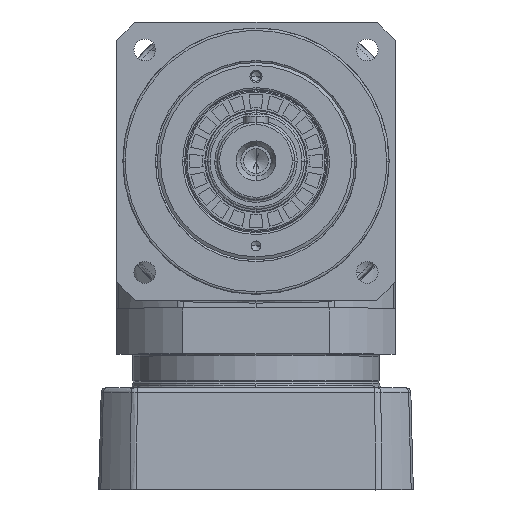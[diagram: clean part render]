
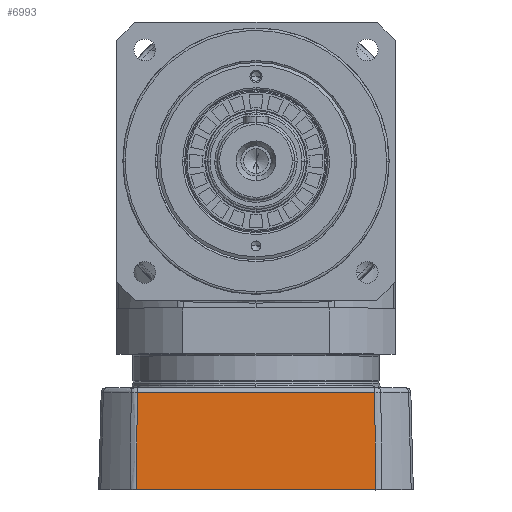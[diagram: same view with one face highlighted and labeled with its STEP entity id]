
A CAD part, top view. The second image highlights one B-rep face of the part: STEP entity #6993.
In plain terms, the highlighted planar face has unit normal (0, 0.026, 1).
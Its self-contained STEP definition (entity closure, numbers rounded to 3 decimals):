
#5768 = CARTESIAN_POINT ( 'NONE',  ( 102.549, -63.06, -131.869 ) ) ;
#6334 = VERTEX_POINT ( 'NONE', #92460 ) ;
#6806 = CARTESIAN_POINT ( 'NONE',  ( 4.103, -103.113, -130.82 ) ) ;
#6993 = ADVANCED_FACE ( 'NONE', ( #15796 ), #74533, .F. ) ;
#8734 = DIRECTION ( 'NONE',  ( -1., 0., 0. ) ) ;
#12037 = EDGE_CURVE ( 'NONE', #70238, #99948, #25780, .T. ) ;
#13867 = CARTESIAN_POINT ( 'NONE',  ( 53.512, -63.06, -131.869 ) ) ;
#15796 = FACE_OUTER_BOUND ( 'NONE', #104680, .T. ) ;
#19050 = LINE ( 'NONE', #67446, #139596 ) ;
#23244 = EDGE_CURVE ( 'NONE', #123557, #6334, #19050, .T. ) ;
#23421 = CARTESIAN_POINT ( 'NONE',  ( 4.476, -63.06, -131.869 ) ) ;
#25780 = LINE ( 'NONE', #13867, #40584 ) ;
#38622 = CARTESIAN_POINT ( 'NONE',  ( 102.922, -103.113, -130.82 ) ) ;
#40584 = VECTOR ( 'NONE', #110691, 1000. ) ;
#50510 = CARTESIAN_POINT ( 'NONE',  ( 102.797, -89.756, -131.17 ) ) ;
#51616 = B_SPLINE_CURVE_WITH_KNOTS ( 'NONE', 3,
 ( #6806, #152029, #107546, #23421 ),
 .UNSPECIFIED., .F., .F.,
 ( 4, 4 ),
 ( 0., 1. ),
 .UNSPECIFIED. ) ;
#55690 = ORIENTED_EDGE ( 'NONE', *, *, #58149, .F. ) ;
#58149 = EDGE_CURVE ( 'NONE', #6334, #99948, #51616, .T. ) ;
#60876 = CARTESIAN_POINT ( 'NONE',  ( 4.476, -63.06, -131.869 ) ) ;
#62420 = CARTESIAN_POINT ( 'NONE',  ( 102.673, -76.405, -131.519 ) ) ;
#66020 = AXIS2_PLACEMENT_3D ( 'NONE', #110281, #84891, #134074 ) ;
#67446 = CARTESIAN_POINT ( 'NONE',  ( 53.512, -103.113, -130.82 ) ) ;
#70238 = VERTEX_POINT ( 'NONE', #5768 ) ;
#74533 = PLANE ( 'NONE',  #66020 ) ;
#75892 = CARTESIAN_POINT ( 'NONE',  ( 102.549, -63.06, -131.869 ) ) ;
#77553 = EDGE_CURVE ( 'NONE', #70238, #123557, #97661, .T. ) ;
#84891 = DIRECTION ( 'NONE',  ( 0., -0.026, -1. ) ) ;
#86698 = ORIENTED_EDGE ( 'NONE', *, *, #12037, .T. ) ;
#92460 = CARTESIAN_POINT ( 'NONE',  ( 4.103, -103.113, -130.82 ) ) ;
#97661 = B_SPLINE_CURVE_WITH_KNOTS ( 'NONE', 3,
 ( #75892, #62420, #50510, #38622 ),
 .UNSPECIFIED., .F., .F.,
 ( 4, 4 ),
 ( 0., 1. ),
 .UNSPECIFIED. ) ;
#99948 = VERTEX_POINT ( 'NONE', #60876 ) ;
#104680 = EDGE_LOOP ( 'NONE', ( #55690, #138063, #123582, #86698 ) ) ;
#107546 = CARTESIAN_POINT ( 'NONE',  ( 4.351, -76.405, -131.519 ) ) ;
#110281 = CARTESIAN_POINT ( 'NONE',  ( 103.515, -63.06, -131.869 ) ) ;
#110691 = DIRECTION ( 'NONE',  ( -1., 0., 0. ) ) ;
#123557 = VERTEX_POINT ( 'NONE', #149187 ) ;
#123582 = ORIENTED_EDGE ( 'NONE', *, *, #77553, .F. ) ;
#134074 = DIRECTION ( 'NONE',  ( 0., -1., 0.026 ) ) ;
#138063 = ORIENTED_EDGE ( 'NONE', *, *, #23244, .F. ) ;
#139596 = VECTOR ( 'NONE', #8734, 1000. ) ;
#149187 = CARTESIAN_POINT ( 'NONE',  ( 102.922, -103.113, -130.82 ) ) ;
#152029 = CARTESIAN_POINT ( 'NONE',  ( 4.227, -89.756, -131.17 ) ) ;
